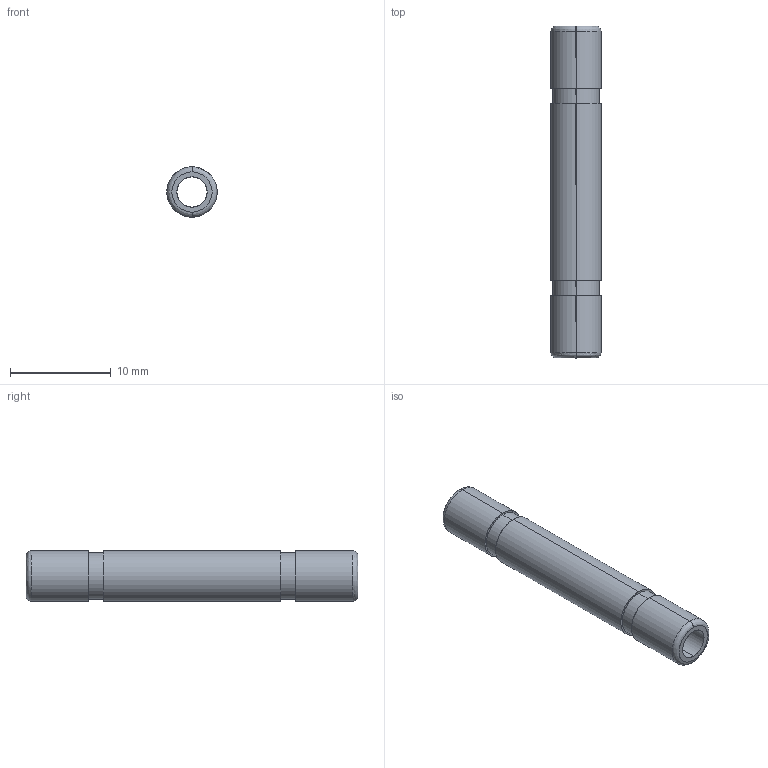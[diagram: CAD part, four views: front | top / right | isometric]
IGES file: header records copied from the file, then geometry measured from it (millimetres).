
Start section: SolidWorks IGES file using analytic representation for surfaces
Global section: file name: K:\Disegni Esecutivi\Serie 50000\50625\506250001X300.IGS; native system: SolidWorks 2007; preprocessor: SolidWorks 2007; author: cad02; date: 071015.081411; units: millimetre
Bounding box: 5 x 33 x 5 mm (x, y, z)
Surface area: 855.8 mm2 (no closed solid volume)
Topology: 0 solids, 0 shells, 22 faces, 448 edges, 448 vertices
Faces by surface type: revolution 12, bspline 10
